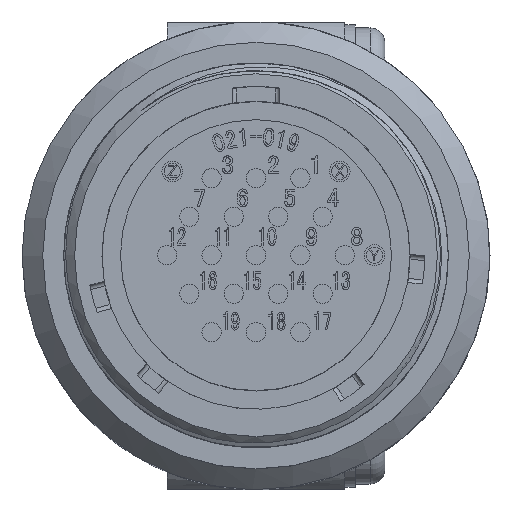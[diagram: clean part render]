
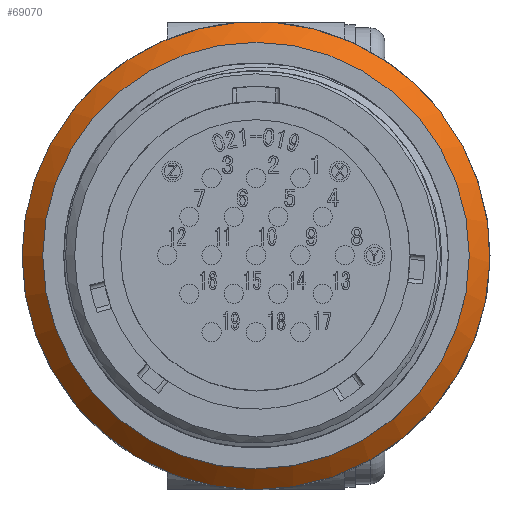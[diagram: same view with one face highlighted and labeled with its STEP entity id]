
A CAD part, top view. The second image highlights one B-rep face of the part: STEP entity #69070.
In plain terms, the highlighted conical face has half-angle 45 degrees and reference radius 15.8 mm.
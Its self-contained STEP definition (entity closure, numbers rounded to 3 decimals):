
#1857 = CIRCLE ( 'NONE', #4974, 15.8 ) ;
#3193 = VERTEX_POINT ( 'NONE', #73580 ) ;
#3959 = EDGE_LOOP ( 'NONE', ( #45914 ) ) ;
#4974 = AXIS2_PLACEMENT_3D ( 'NONE', #34856, #60325, #66660 ) ;
#6197 = DIRECTION ( 'NONE',  ( -1., 0., 0. ) ) ;
#14954 = VERTEX_POINT ( 'NONE', #61257 ) ;
#24011 = DIRECTION ( 'NONE',  ( 0., 0., -1. ) ) ;
#24300 = CARTESIAN_POINT ( 'NONE',  ( 0., 0., -22.1 ) ) ;
#25933 = CARTESIAN_POINT ( 'NONE',  ( 0., 0., -20.7 ) ) ;
#29928 = EDGE_CURVE ( 'NONE', #14954, #14954, #1857, .T. ) ;
#31950 = FACE_OUTER_BOUND ( 'NONE', #3959, .T. ) ;
#33551 = AXIS2_PLACEMENT_3D ( 'NONE', #24300, #24011, #49752 ) ;
#34856 = CARTESIAN_POINT ( 'NONE',  ( 0., 0., -22.1 ) ) ;
#35737 = EDGE_CURVE ( 'NONE', #3193, #3193, #62228, .T. ) ;
#45914 = ORIENTED_EDGE ( 'NONE', *, *, #29928, .T. ) ;
#47202 = ORIENTED_EDGE ( 'NONE', *, *, #35737, .F. ) ;
#49752 = DIRECTION ( 'NONE',  ( -1., 0., 0. ) ) ;
#58365 = FACE_BOUND ( 'NONE', #66365, .T. ) ;
#60325 = DIRECTION ( 'NONE',  ( 0., 0., 1. ) ) ;
#61257 = CARTESIAN_POINT ( 'NONE',  ( -15.8, 0., -22.1 ) ) ;
#62228 = CIRCLE ( 'NONE', #69831, 14.4 ) ;
#64309 = CONICAL_SURFACE ( 'NONE', #33551, 15.8, 0.785 ) ;
#66365 = EDGE_LOOP ( 'NONE', ( #47202 ) ) ;
#66660 = DIRECTION ( 'NONE',  ( -1., 0., 0. ) ) ;
#69070 = ADVANCED_FACE ( 'NONE', ( #31950, #58365 ), #64309, .T. ) ;
#69831 = AXIS2_PLACEMENT_3D ( 'NONE', #25933, #75520, #6197 ) ;
#73580 = CARTESIAN_POINT ( 'NONE',  ( -14.4, 0., -20.7 ) ) ;
#75520 = DIRECTION ( 'NONE',  ( 0., 0., 1. ) ) ;
